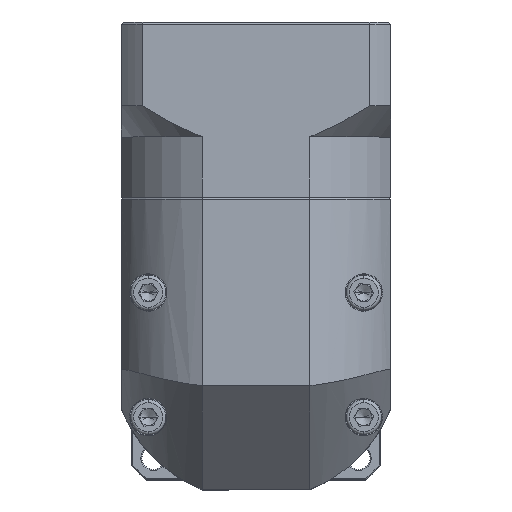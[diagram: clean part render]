
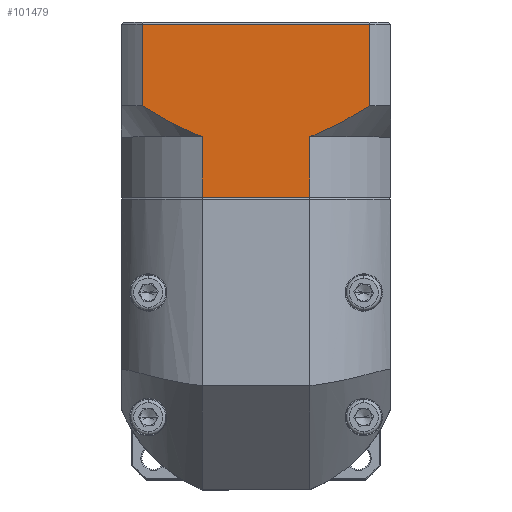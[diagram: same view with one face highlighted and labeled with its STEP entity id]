
A CAD part, top view. The second image highlights one B-rep face of the part: STEP entity #101479.
In plain terms, the highlighted planar face has unit normal (0, 0, 1).
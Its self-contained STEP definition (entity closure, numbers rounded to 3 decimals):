
#927 = VECTOR ( 'NONE', #40846, 1000. ) ;
#2503 = CARTESIAN_POINT ( 'NONE',  ( -80.469, 94.982, 62.31 ) ) ;
#2541 = ORIENTED_EDGE ( 'NONE', *, *, #15085, .T. ) ;
#4244 = DIRECTION ( 'NONE',  ( -1., 0., 0. ) ) ;
#4394 = CARTESIAN_POINT ( 'NONE',  ( -74.659, 91.479, 62.31 ) ) ;
#5520 = CARTESIAN_POINT ( 'NONE',  ( -85.583, 72.982, 62.31 ) ) ;
#5863 = CARTESIAN_POINT ( 'NONE',  ( -27.965, 93.52, 62.31 ) ) ;
#6082 = VERTEX_POINT ( 'NONE', #97757 ) ;
#8706 = CARTESIAN_POINT ( 'NONE',  ( -80.469, 94.982, 62.31 ) ) ;
#8842 = LINE ( 'NONE', #38349, #61573 ) ;
#12296 = DIRECTION ( 'NONE',  ( 0., 0., -1. ) ) ;
#12700 = ORIENTED_EDGE ( 'NONE', *, *, #23215, .F. ) ;
#12796 = CARTESIAN_POINT ( 'NONE',  ( -66.073, 87.482, 62.31 ) ) ;
#13046 = PLANE ( 'NONE',  #27445 ) ;
#15085 = EDGE_CURVE ( 'NONE', #30892, #35403, #80085, .T. ) ;
#20991 = CARTESIAN_POINT ( 'NONE',  ( -40.093, 87.482, 62.31 ) ) ;
#21041 = B_SPLINE_CURVE_WITH_KNOTS ( 'NONE', 3,
 ( #2503, #93519, #74913, #83449, #4394, #40420, #56709, #57493 ),
 .UNSPECIFIED., .F., .F.,
 ( 4, 2, 2, 4 ),
 ( 0.058, 0.062, 0.066, 0.074 ),
 .UNSPECIFIED. ) ;
#21211 = DIRECTION ( 'NONE',  ( 0., 1., 0. ) ) ;
#21524 = EDGE_CURVE ( 'NONE', #109628, #71714, #107637, .T. ) ;
#23215 = EDGE_CURVE ( 'NONE', #39567, #35403, #101337, .T. ) ;
#23294 = CARTESIAN_POINT ( 'NONE',  ( -35.072, 89.623, 62.31 ) ) ;
#24071 = CARTESIAN_POINT ( 'NONE',  ( -33.86, 90.228, 62.31 ) ) ;
#27107 = CARTESIAN_POINT ( 'NONE',  ( -40.093, 72.982, 62.31 ) ) ;
#27445 = AXIS2_PLACEMENT_3D ( 'NONE', #93686, #12296, #21211 ) ;
#28658 = ORIENTED_EDGE ( 'NONE', *, *, #56722, .F. ) ;
#29362 = CARTESIAN_POINT ( 'NONE',  ( -80.469, 87.482, 62.31 ) ) ;
#29745 = DIRECTION ( 'NONE',  ( 0., 1., 0. ) ) ;
#30892 = VERTEX_POINT ( 'NONE', #81131 ) ;
#33003 = DIRECTION ( 'NONE',  ( 0., 1., 0. ) ) ;
#35403 = VERTEX_POINT ( 'NONE', #73648 ) ;
#35636 = ORIENTED_EDGE ( 'NONE', *, *, #95185, .T. ) ;
#36197 = VECTOR ( 'NONE', #29745, 1000. ) ;
#38349 = CARTESIAN_POINT ( 'NONE',  ( -25.697, 87.482, 62.31 ) ) ;
#38876 = ORIENTED_EDGE ( 'NONE', *, *, #91518, .T. ) ;
#39567 = VERTEX_POINT ( 'NONE', #8706 ) ;
#39810 = ORIENTED_EDGE ( 'NONE', *, *, #21524, .F. ) ;
#40420 = CARTESIAN_POINT ( 'NONE',  ( -71.063, 89.569, 62.31 ) ) ;
#40846 = DIRECTION ( 'NONE',  ( 0., -1., 0. ) ) ;
#50440 = CARTESIAN_POINT ( 'NONE',  ( -39.451, 87.72, 62.31 ) ) ;
#51794 = VECTOR ( 'NONE', #113208, 1000. ) ;
#56709 = CARTESIAN_POINT ( 'NONE',  ( -68.611, 88.424, 62.31 ) ) ;
#56722 = EDGE_CURVE ( 'NONE', #30892, #6082, #8842, .T. ) ;
#57493 = CARTESIAN_POINT ( 'NONE',  ( -66.073, 87.482, 62.31 ) ) ;
#59313 = CARTESIAN_POINT ( 'NONE',  ( -37.55, 88.498, 62.31 ) ) ;
#61573 = VECTOR ( 'NONE', #101465, 1000. ) ;
#62129 = FACE_OUTER_BOUND ( 'NONE', #80517, .T. ) ;
#68966 = EDGE_CURVE ( 'NONE', #87518, #70179, #108654, .T. ) ;
#69065 = CARTESIAN_POINT ( 'NONE',  ( -25.697, 94.982, 62.31 ) ) ;
#70179 = VERTEX_POINT ( 'NONE', #12796 ) ;
#71714 = VERTEX_POINT ( 'NONE', #27107 ) ;
#72828 = ORIENTED_EDGE ( 'NONE', *, *, #91335, .T. ) ;
#73648 = CARTESIAN_POINT ( 'NONE',  ( -80.469, 114.682, 62.31 ) ) ;
#74913 = CARTESIAN_POINT ( 'NONE',  ( -78.18, 93.533, 62.31 ) ) ;
#76465 = CARTESIAN_POINT ( 'NONE',  ( -40.093, 87.482, 62.31 ) ) ;
#77548 = CARTESIAN_POINT ( 'NONE',  ( -30.279, 92.133, 62.31 ) ) ;
#77797 = ORIENTED_EDGE ( 'NONE', *, *, #68966, .F. ) ;
#80085 = LINE ( 'NONE', #91837, #86960 ) ;
#80517 = EDGE_LOOP ( 'NONE', ( #28658, #2541, #12700, #72828, #77797, #38876, #39810, #35636 ) ) ;
#81131 = CARTESIAN_POINT ( 'NONE',  ( -25.697, 114.682, 62.31 ) ) ;
#83449 = CARTESIAN_POINT ( 'NONE',  ( -75.845, 92.149, 62.31 ) ) ;
#84958 = CARTESIAN_POINT ( 'NONE',  ( -36.926, 88.772, 62.31 ) ) ;
#86960 = VECTOR ( 'NONE', #4244, 1000. ) ;
#87518 = VERTEX_POINT ( 'NONE', #89948 ) ;
#89948 = CARTESIAN_POINT ( 'NONE',  ( -66.073, 72.982, 62.31 ) ) ;
#91335 = EDGE_CURVE ( 'NONE', #39567, #70179, #21041, .T. ) ;
#91518 = EDGE_CURVE ( 'NONE', #87518, #71714, #97473, .T. ) ;
#91837 = CARTESIAN_POINT ( 'NONE',  ( -85.583, 114.682, 62.31 ) ) ;
#93519 = CARTESIAN_POINT ( 'NONE',  ( -79.331, 94.248, 62.31 ) ) ;
#93686 = CARTESIAN_POINT ( 'NONE',  ( -85.583, 115.182, 62.31 ) ) ;
#94218 = CARTESIAN_POINT ( 'NONE',  ( -40.093, 87.482, 62.31 ) ) ;
#95185 = EDGE_CURVE ( 'NONE', #109628, #6082, #104369, .T. ) ;
#95790 = CARTESIAN_POINT ( 'NONE',  ( -66.073, 87.482, 62.31 ) ) ;
#97473 = LINE ( 'NONE', #5520, #51794 ) ;
#97561 = VECTOR ( 'NONE', #33003, 1000. ) ;
#97757 = CARTESIAN_POINT ( 'NONE',  ( -25.697, 94.982, 62.31 ) ) ;
#101337 = LINE ( 'NONE', #29362, #36197 ) ;
#101465 = DIRECTION ( 'NONE',  ( 0., -1., 0. ) ) ;
#101479 = ADVANCED_FACE ( 'NONE', ( #62129 ), #13046, .F. ) ;
#104369 = B_SPLINE_CURVE_WITH_KNOTS ( 'NONE', 3,
 ( #94218, #50440, #113175, #59313, #84958, #23294, #24071, #77548, #5863, #69065 ),
 .UNSPECIFIED., .F., .F.,
 ( 4, 2, 2, 2, 4 ),
 ( 0.101, 0.103, 0.105, 0.109, 0.117 ),
 .UNSPECIFIED. ) ;
#107637 = LINE ( 'NONE', #76465, #927 ) ;
#108654 = LINE ( 'NONE', #95790, #97561 ) ;
#109628 = VERTEX_POINT ( 'NONE', #20991 ) ;
#113175 = CARTESIAN_POINT ( 'NONE',  ( -38.812, 87.973, 62.31 ) ) ;
#113208 = DIRECTION ( 'NONE',  ( 1., 0., 0. ) ) ;
